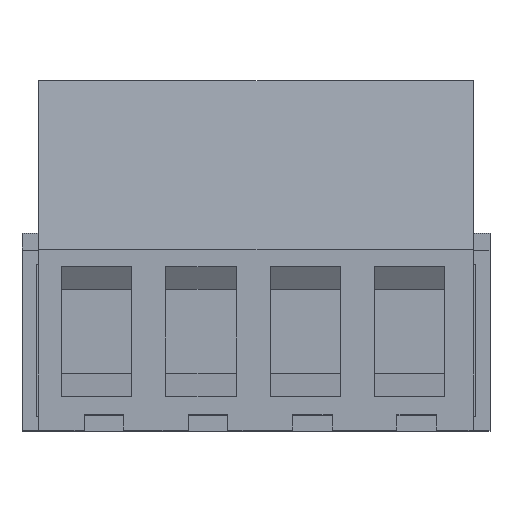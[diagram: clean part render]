
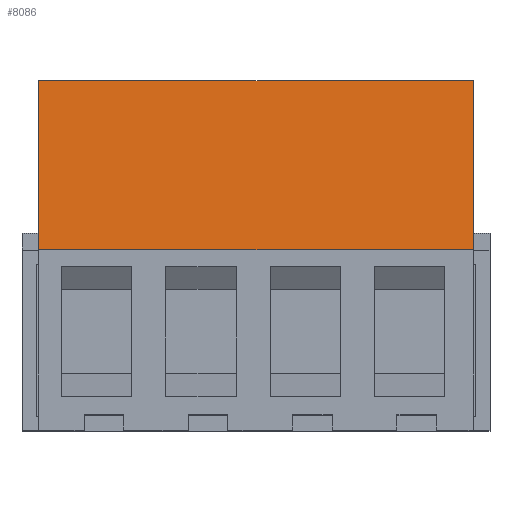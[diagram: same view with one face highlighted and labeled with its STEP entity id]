
A CAD part, top view. The second image highlights one B-rep face of the part: STEP entity #8086.
In plain terms, the highlighted planar face has unit normal (0, 0.091, 0.996) as drawn and (0, 0.091, -0.996) by its records, which use the part's own axes.
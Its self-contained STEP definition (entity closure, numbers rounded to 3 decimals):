
#216 = DIRECTION ( 'NONE',  ( -1., 0., 0. ) ) ;
#305 = CARTESIAN_POINT ( 'NONE',  ( 8.3, 12.4, 0.95 ) ) ;
#313 = DIRECTION ( 'NONE',  ( 0., -0.091, 0.996 ) ) ;
#794 = LINE ( 'NONE', #7651, #8893 ) ;
#1174 = ORIENTED_EDGE ( 'NONE', *, *, #7024, .F. ) ;
#1317 = EDGE_LOOP ( 'NONE', ( #1486, #2062, #1174, #1859 ) ) ;
#1479 = VECTOR ( 'NONE', #216, 1000. ) ;
#1486 = ORIENTED_EDGE ( 'NONE', *, *, #6137, .T. ) ;
#1859 = ORIENTED_EDGE ( 'NONE', *, *, #5698, .T. ) ;
#2062 = ORIENTED_EDGE ( 'NONE', *, *, #3399, .T. ) ;
#2142 = LINE ( 'NONE', #4176, #7856 ) ;
#2406 = LINE ( 'NONE', #305, #1479 ) ;
#3399 = EDGE_CURVE ( 'NONE', #8120, #7760, #5328, .T. ) ;
#3647 = DIRECTION ( 'NONE',  ( 0., -0.996, -0.091 ) ) ;
#3830 = CARTESIAN_POINT ( 'NONE',  ( -7.7, 12.4, 0.95 ) ) ;
#3911 = CARTESIAN_POINT ( 'NONE',  ( -7.7, 6.4, 0.4 ) ) ;
#3970 = DIRECTION ( 'NONE',  ( 0., 0.996, 0.091 ) ) ;
#4176 = CARTESIAN_POINT ( 'NONE',  ( 7.7, 12.4, 0.95 ) ) ;
#4249 = CARTESIAN_POINT ( 'NONE',  ( -7.7, 12.4, 0.95 ) ) ;
#4316 = FACE_OUTER_BOUND ( 'NONE', #1317, .T. ) ;
#4354 = VERTEX_POINT ( 'NONE', #4603 ) ;
#4365 = CARTESIAN_POINT ( 'NONE',  ( 8.3, 12.4, 0.95 ) ) ;
#4603 = CARTESIAN_POINT ( 'NONE',  ( 7.7, 12.4, 0.95 ) ) ;
#5328 = LINE ( 'NONE', #3830, #6255 ) ;
#5698 = EDGE_CURVE ( 'NONE', #4354, #8614, #2142, .T. ) ;
#6137 = EDGE_CURVE ( 'NONE', #8614, #8120, #794, .T. ) ;
#6255 = VECTOR ( 'NONE', #3970, 1000. ) ;
#6330 = AXIS2_PLACEMENT_3D ( 'NONE', #4365, #313, #3647 ) ;
#6387 = DIRECTION ( 'NONE',  ( 0., -0.996, -0.091 ) ) ;
#6661 = CARTESIAN_POINT ( 'NONE',  ( 7.7, 6.4, 0.4 ) ) ;
#7024 = EDGE_CURVE ( 'NONE', #4354, #7760, #2406, .T. ) ;
#7297 = PLANE ( 'NONE',  #6330 ) ;
#7651 = CARTESIAN_POINT ( 'NONE',  ( 8.3, 6.4, 0.4 ) ) ;
#7760 = VERTEX_POINT ( 'NONE', #4249 ) ;
#7856 = VECTOR ( 'NONE', #6387, 1000. ) ;
#8086 = ADVANCED_FACE ( 'NONE', ( #4316 ), #7297, .F. ) ;
#8120 = VERTEX_POINT ( 'NONE', #3911 ) ;
#8424 = DIRECTION ( 'NONE',  ( -1., 0., 0. ) ) ;
#8614 = VERTEX_POINT ( 'NONE', #6661 ) ;
#8893 = VECTOR ( 'NONE', #8424, 1000. ) ;
